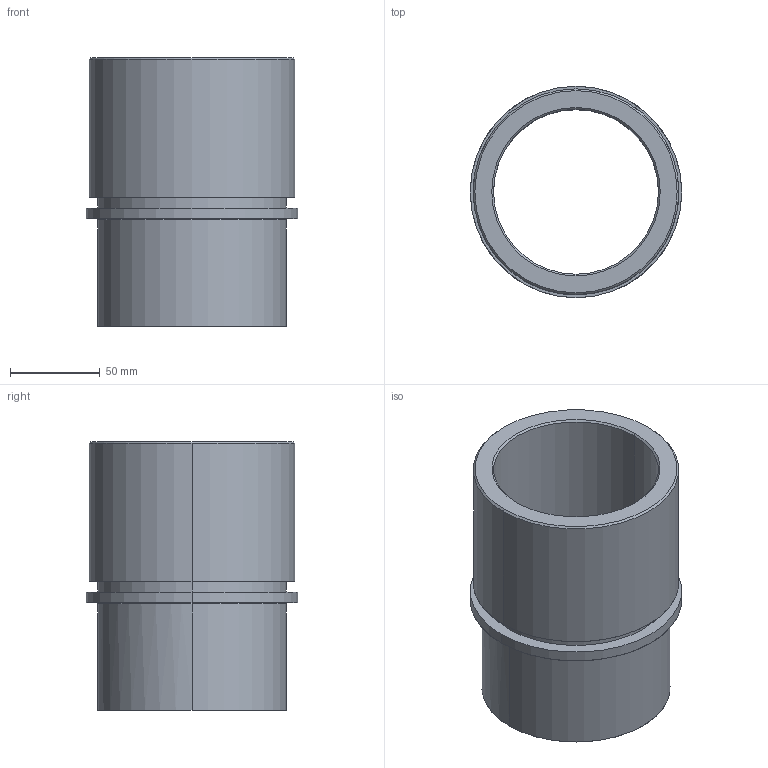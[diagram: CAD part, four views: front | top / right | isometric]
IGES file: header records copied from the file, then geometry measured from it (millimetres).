
Start section: START RECORD GO HERE.
Global section: file name: 733-80.igs; native system: DASSAULT SYSTEMES CATIA V5 R20 - www.3ds.com; preprocessor: CATIA Version 5 Release 20 ; author: Utente; organization: NB04-ASUS; date: 20210111.182711; units: millimetre
Bounding box: 118 x 118 x 150 mm (x, y, z)
Surface area: 107425.5 mm2 (no closed solid volume)
Topology: 0 solids, 0 shells, 25 faces, 100 edges, 100 vertices
Faces by surface type: revolution 20, plane 5
